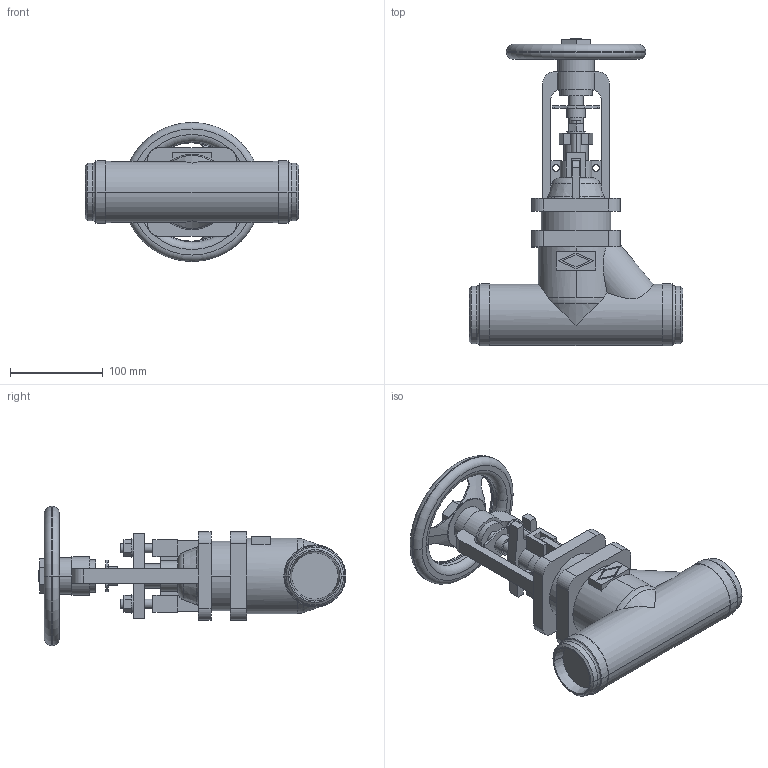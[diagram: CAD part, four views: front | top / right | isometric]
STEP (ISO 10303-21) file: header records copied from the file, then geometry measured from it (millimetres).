
FILE_DESCRIPTION(('OneSpaceDesigner STEP Export'),'2;1');
FILE_NAME('c000004307.stp','2010-05-06T 8:56:12',(''),(''),'OneSpace Designer STEP processor for AP214 (Solid Model)','OneSpace Modeling 15.50B 03-Nov-2007 (C) CoCreate Software GmbH','');
FILE_SCHEMA(('AUTOMOTIVE_DESIGN { 1 0 10303 214 1 1 1 1 }'));
Length unit declared in the file: millimetre
Products named in the file (1): 1
Bounding box: 230 x 331.9 x 150 mm (x, y, z)
Volume: 1806184 mm3; surface area: 190351.4 mm2
Topology: 1 solids, 1 shells, 278 faces, 744 edges, 488 vertices
Faces by surface type: plane 138, cylinder 92, cone 24, torus 24
Entity records: 11179 total; most frequent: CARTESIAN_POINT 2306, ORIENTED_EDGE 1480, DIRECTION 1250, EDGE_CURVE 740, VERTEX_POINT 484, AXIS2_PLACEMENT_3D 428, VECTOR 394, LINE 394
